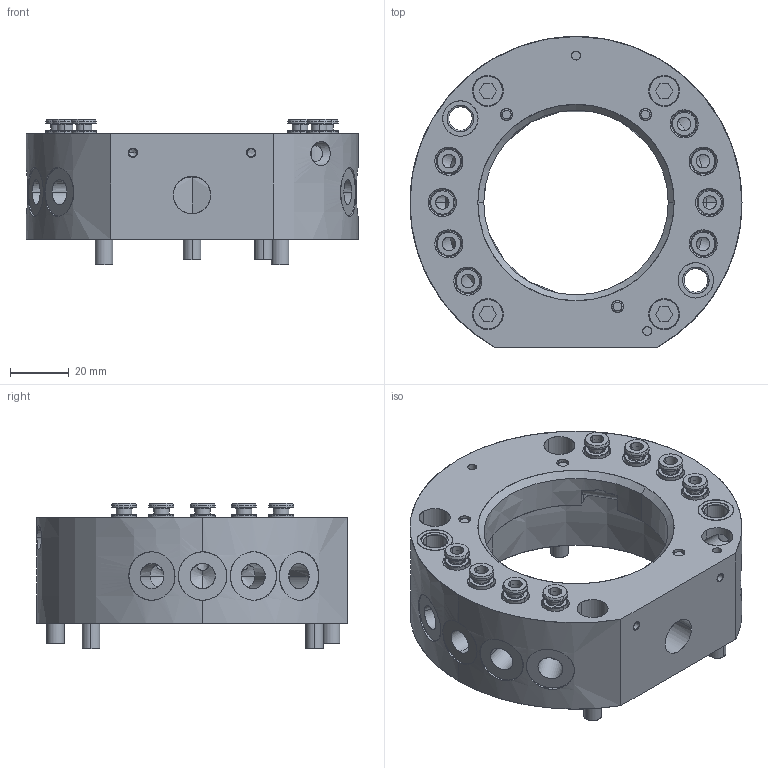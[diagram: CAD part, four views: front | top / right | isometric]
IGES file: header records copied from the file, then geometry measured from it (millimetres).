
Start section: Comment
Global section: file name: 99-0064A.igs; native system: Parasolid(12.0); preprocessor: Pariges 4.4; author: Author; organization: Title; date: 20010709.130452; units: millimetre
Bounding box: 113 x 105.77 x 49.57 mm (x, y, z)
Surface area: 61905.8 mm2 (no closed solid volume)
Topology: 0 solids, 0 shells, 576 faces, 8134 edges, 8101 vertices
Faces by surface type: revolution 429, extrusion 147
